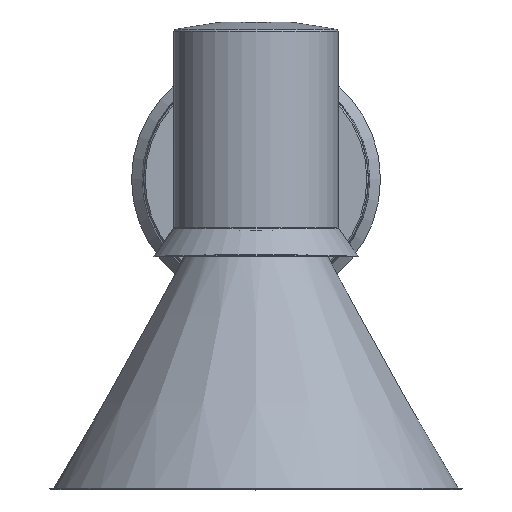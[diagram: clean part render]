
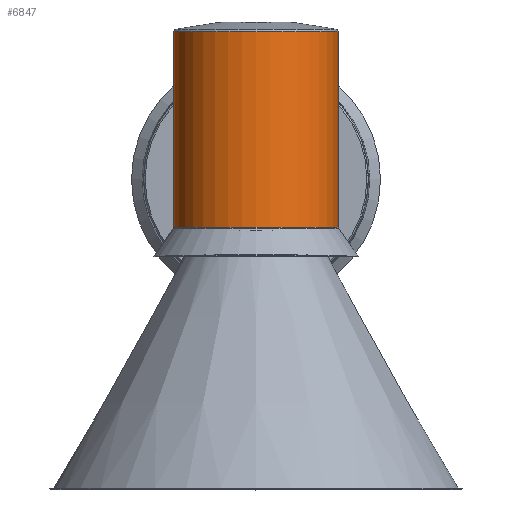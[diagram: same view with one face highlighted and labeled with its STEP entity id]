
A CAD part, top view. The second image highlights one B-rep face of the part: STEP entity #6847.
In plain terms, the highlighted cylindrical face has radius 28.856 mm (diameter 57.712 mm), a full revolution.
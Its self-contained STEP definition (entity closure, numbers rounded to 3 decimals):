
#580=CIRCLE('',#7378,28.856);
#581=CIRCLE('',#7379,28.856);
#582=CIRCLE('',#7380,28.856);
#583=CIRCLE('',#7381,28.856);
#584=CIRCLE('',#7382,28.856);
#1132=LINE('',#13790,#1683);
#1135=LINE('',#13796,#1686);
#1164=LINE('',#14174,#1715);
#1167=LINE('',#14181,#1718);
#1169=LINE('',#14188,#1720);
#1170=LINE('',#14191,#1721);
#1171=LINE('',#14194,#1722);
#1683=VECTOR('',#8831,10.);
#1686=VECTOR('',#8836,10.);
#1715=VECTOR('',#8941,10.);
#1718=VECTOR('',#8948,10.);
#1720=VECTOR('',#8954,28.856);
#1721=VECTOR('',#8957,10.);
#1722=VECTOR('',#8960,10.);
#1789=CYLINDRICAL_SURFACE('',#7377,28.856);
#2144=FACE_OUTER_BOUND('',#2565,.T.);
#2565=EDGE_LOOP('',(#6089,#6090,#6091,#6092,#6093,#6094,#6095,#6096,#6097,
#6098,#6099,#6100,#6101,#6102,#6103,#6104,#6105));
#2638=ELLIPSE('',#7332,40.809,28.856);
#2639=ELLIPSE('',#7334,40.809,28.856);
#2640=ELLIPSE('',#7369,40.809,28.856);
#2641=ELLIPSE('',#7372,40.809,28.856);
#3185=VERTEX_POINT('',#13759);
#3186=VERTEX_POINT('',#13760);
#3192=VERTEX_POINT('',#13774);
#3194=VERTEX_POINT('',#13777);
#3199=VERTEX_POINT('',#13789);
#3201=VERTEX_POINT('',#13795);
#3222=VERTEX_POINT('',#14151);
#3225=VERTEX_POINT('',#14162);
#3228=VERTEX_POINT('',#14172);
#3230=VERTEX_POINT('',#14180);
#3231=VERTEX_POINT('',#14184);
#3232=VERTEX_POINT('',#14185);
#3233=VERTEX_POINT('',#14187);
#3234=VERTEX_POINT('',#14190);
#3235=VERTEX_POINT('',#14192);
#4125=EDGE_CURVE('',#3185,#3186,#2638,.T.);
#4133=EDGE_CURVE('',#3194,#3192,#2639,.T.);
#4139=EDGE_CURVE('',#3199,#3194,#1132,.T.);
#4142=EDGE_CURVE('',#3186,#3201,#1135,.T.);
#4184=EDGE_CURVE('',#3222,#3199,#2640,.T.);
#4187=EDGE_CURVE('',#3201,#3225,#2641,.T.);
#4193=EDGE_CURVE('',#3225,#3228,#1164,.T.);
#4196=EDGE_CURVE('',#3230,#3222,#1167,.T.);
#4198=EDGE_CURVE('',#3231,#3232,#580,.T.);
#4199=EDGE_CURVE('',#3232,#3233,#1169,.T.);
#4200=EDGE_CURVE('',#3233,#3230,#581,.T.);
#4201=EDGE_CURVE('',#3192,#3234,#1170,.T.);
#4202=EDGE_CURVE('',#3234,#3235,#582,.T.);
#4203=EDGE_CURVE('',#3235,#3185,#1171,.T.);
#4204=EDGE_CURVE('',#3228,#3233,#583,.T.);
#4205=EDGE_CURVE('',#3232,#3231,#584,.T.);
#6089=ORIENTED_EDGE('',*,*,#4198,.T.);
#6090=ORIENTED_EDGE('',*,*,#4199,.T.);
#6091=ORIENTED_EDGE('',*,*,#4200,.T.);
#6092=ORIENTED_EDGE('',*,*,#4196,.T.);
#6093=ORIENTED_EDGE('',*,*,#4184,.T.);
#6094=ORIENTED_EDGE('',*,*,#4139,.T.);
#6095=ORIENTED_EDGE('',*,*,#4133,.T.);
#6096=ORIENTED_EDGE('',*,*,#4201,.T.);
#6097=ORIENTED_EDGE('',*,*,#4202,.T.);
#6098=ORIENTED_EDGE('',*,*,#4203,.T.);
#6099=ORIENTED_EDGE('',*,*,#4125,.T.);
#6100=ORIENTED_EDGE('',*,*,#4142,.T.);
#6101=ORIENTED_EDGE('',*,*,#4187,.T.);
#6102=ORIENTED_EDGE('',*,*,#4193,.T.);
#6103=ORIENTED_EDGE('',*,*,#4204,.T.);
#6104=ORIENTED_EDGE('',*,*,#4199,.F.);
#6105=ORIENTED_EDGE('',*,*,#4205,.T.);
#6847=ADVANCED_FACE('',(#2144),#1789,.T.);
#7332=AXIS2_PLACEMENT_3D('',#13761,#8811,#8812);
#7334=AXIS2_PLACEMENT_3D('',#13778,#8822,#8823);
#7369=AXIS2_PLACEMENT_3D('',#14156,#8922,#8923);
#7372=AXIS2_PLACEMENT_3D('',#14163,#8930,#8931);
#7377=AXIS2_PLACEMENT_3D('',#14183,#8950,#8951);
#7378=AXIS2_PLACEMENT_3D('',#14186,#8952,#8953);
#7379=AXIS2_PLACEMENT_3D('',#14189,#8955,#8956);
#7380=AXIS2_PLACEMENT_3D('',#14193,#8958,#8959);
#7381=AXIS2_PLACEMENT_3D('',#14195,#8961,#8962);
#7382=AXIS2_PLACEMENT_3D('',#14196,#8963,#8964);
#8811=DIRECTION('center_axis',(-0.707,0.707,0.));
#8812=DIRECTION('ref_axis',(-0.707,-0.707,0.));
#8822=DIRECTION('center_axis',(0.707,0.707,0.));
#8823=DIRECTION('ref_axis',(-0.707,0.707,0.));
#8831=DIRECTION('',(0.,1.,0.));
#8836=DIRECTION('',(0.,-1.,0.));
#8922=DIRECTION('center_axis',(0.707,-0.707,0.));
#8923=DIRECTION('ref_axis',(-0.707,-0.707,0.));
#8930=DIRECTION('center_axis',(-0.707,-0.707,0.));
#8931=DIRECTION('ref_axis',(-0.707,0.707,0.));
#8941=DIRECTION('',(0.,-1.,0.));
#8948=DIRECTION('',(0.,1.,0.));
#8950=DIRECTION('center_axis',(0.,1.,0.));
#8951=DIRECTION('ref_axis',(0.,0.,
-1.));
#8952=DIRECTION('center_axis',(0.,-1.,0.));
#8953=DIRECTION('ref_axis',(0.,0.,1.));
#8954=DIRECTION('',(0.,-1.,0.));
#8955=DIRECTION('center_axis',(0.,1.,0.));
#8956=DIRECTION('ref_axis',(0.,0.,
-1.));
#8957=DIRECTION('',(0.,1.,0.));
#8958=DIRECTION('center_axis',(0.,1.,0.));
#8959=DIRECTION('ref_axis',(0.,0.,
-1.));
#8960=DIRECTION('',(0.,-1.,0.));
#8961=DIRECTION('center_axis',(0.,1.,0.));
#8962=DIRECTION('ref_axis',(0.,0.,
-1.));
#8963=DIRECTION('center_axis',(0.,-1.,0.));
#8964=DIRECTION('ref_axis',(0.,0.,1.));
#13759=CARTESIAN_POINT('',(-20.18,20.896,234.807));
#13760=CARTESIAN_POINT('',(-20.23,20.846,234.825));
#13761=CARTESIAN_POINT('Origin',(-10.43,30.646,261.966));
#13774=CARTESIAN_POINT('',(-0.68,20.896,234.807));
#13777=CARTESIAN_POINT('',(-0.63,20.846,234.825));
#13778=CARTESIAN_POINT('Origin',(-10.43,30.646,261.966));
#13789=CARTESIAN_POINT('',(-0.63,-12.554,234.825));
#13790=CARTESIAN_POINT('',(-0.63,59.343,234.825));
#13795=CARTESIAN_POINT('',(-20.23,-12.554,234.825));
#13796=CARTESIAN_POINT('',(-20.23,59.343,234.825));
#14151=CARTESIAN_POINT('',(-0.68,-12.604,234.807));
#14156=CARTESIAN_POINT('Origin',(-10.43,-22.354,261.966));
#14162=CARTESIAN_POINT('',(-20.18,-12.604,234.807));
#14163=CARTESIAN_POINT('Origin',(-10.43,-22.354,261.966));
#14172=CARTESIAN_POINT('',(-20.18,-13.104,234.807));
#14174=CARTESIAN_POINT('',(-20.18,59.343,234.807));
#14180=CARTESIAN_POINT('',(-0.68,-13.104,234.807));
#14181=CARTESIAN_POINT('',(-0.68,59.343,234.807));
#14183=CARTESIAN_POINT('Origin',(-10.43,59.343,261.966));
#14184=CARTESIAN_POINT('',(-10.43,55.406,233.11));
#14185=CARTESIAN_POINT('',(-10.43,55.406,290.822));
#14186=CARTESIAN_POINT('Origin',(-10.43,55.406,261.966));
#14187=CARTESIAN_POINT('',(-10.43,-13.104,290.822));
#14188=CARTESIAN_POINT('',(-10.43,59.343,290.822));
#14189=CARTESIAN_POINT('Origin',(-10.43,-13.104,261.966));
#14190=CARTESIAN_POINT('',(-0.68,21.396,234.807));
#14191=CARTESIAN_POINT('',(-0.68,59.343,234.807));
#14192=CARTESIAN_POINT('',(-20.18,21.396,234.807));
#14193=CARTESIAN_POINT('Origin',(-10.43,21.396,261.966));
#14194=CARTESIAN_POINT('',(-20.18,59.343,234.807));
#14195=CARTESIAN_POINT('Origin',(-10.43,-13.104,261.966));
#14196=CARTESIAN_POINT('Origin',(-10.43,55.406,261.966));
